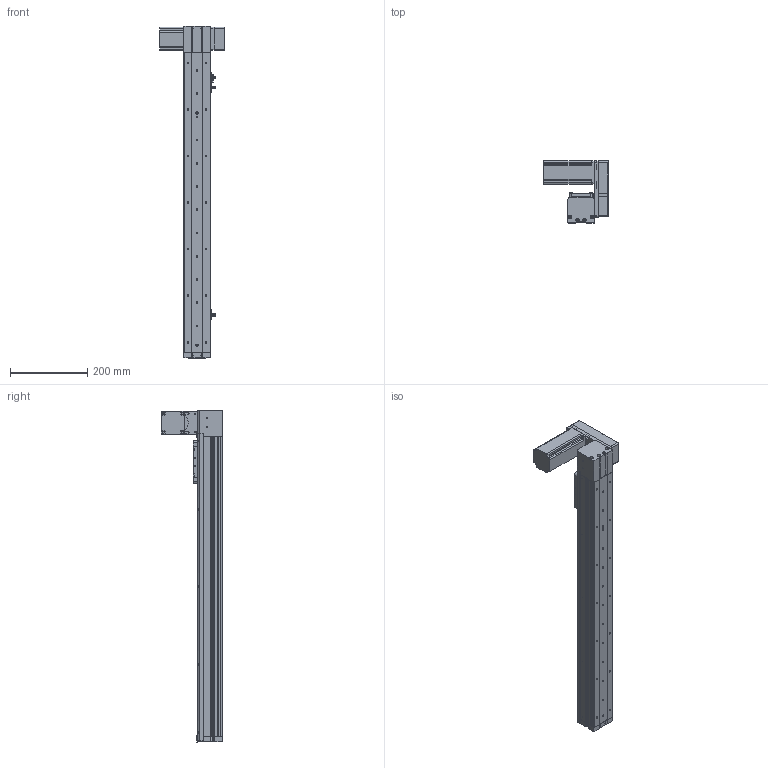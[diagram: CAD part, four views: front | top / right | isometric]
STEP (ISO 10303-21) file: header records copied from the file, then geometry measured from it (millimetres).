
FILE_DESCRIPTION (( 'STEP AP214' ), '1' );
FILE_NAME ('KSD68BS-S600-MLU-CR.STEP', '2019-08-27T08:05:38', ( '微软用户' ), ( '微软中国' ), 'SwSTEP 2.0', 'SolidWorks 2014', '' );
FILE_SCHEMA (( 'AUTOMOTIVE_DESIGN' ));
Length unit declared in the file: millimetre
Products named in the file (14): 68宽马达安装板连板上折同步带; 感应片68宽全封闭; U倰嫖萇EEㄜSX672; 台达ECMA－C20604AS伺服电机（400W); KSD68BS 600行程底板全封闭; KSD68BS-S600-MLU-CR; 68遵裔啣揤啣1; 68宽单导轨全封闭丝杆传动安装板1防护罩; KSD68BS 600行程侧板全封闭; 68宽单导轨全封闭同步带端板; 68单导轨全封闭同步带电机座左; KSD68BS 600行程盖板全封闭; 68单导轨全封闭同步带安装板; 悵誘欶奻狟殏
Assembly tree (17 placements, depth 2):
  KSD68BS-S600-MLU-CR
    KSD68BS 600行程底板全封闭
    台达ECMA－C20604AS伺服电机（400W)
    U倰嫖萇EEㄜSX672  x3
    感应片68宽全封闭
    68宽马达安装板连板上折同步带
    悵誘欶奻狟殏
    68单导轨全封闭同步带安装板
    68单导轨全封闭同步带电机座左
    68宽单导轨全封闭同步带端板
    KSD68BS 600行程侧板全封闭  x2
    68宽单导轨全封闭丝杆传动安装板1防护罩
    68遵裔啣揤啣1  x2
    KSD68BS 600行程盖板全封闭
Bounding box: 167.2 x 159.5 x 858.1 mm (x, y, z)
Volume: 1997465.5 mm3; surface area: 717808.4 mm2
Topology: 18 solids, 18 shells, 1439 faces, 4065 edges, 2608 vertices
Faces by surface type: cylinder 666, plane 625, cone 148
Entity records: 44995 total; most frequent: CARTESIAN_POINT 7665, DIRECTION 6770, ORIENTED_EDGE 6482, EDGE_CURVE 3241, AXIS2_PLACEMENT_3D 2425, VERTEX_POINT 2126, LINE 1920, VECTOR 1920
